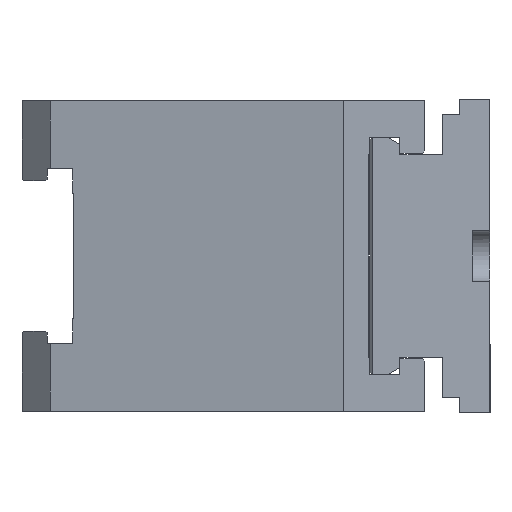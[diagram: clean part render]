
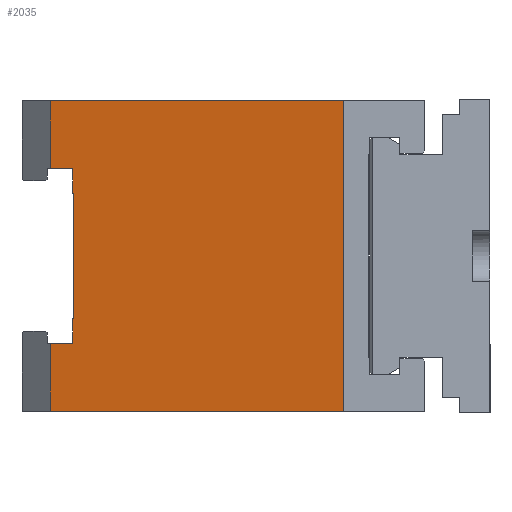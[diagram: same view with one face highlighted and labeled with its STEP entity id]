
A CAD part, left-side view. The second image highlights one B-rep face of the part: STEP entity #2035.
In plain terms, the highlighted planar face has unit normal (-0.985, 0.174, 0).
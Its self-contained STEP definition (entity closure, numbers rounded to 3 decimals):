
#495 = PLANE ( 'NONE',  #42684 ) ;
#2035 = ADVANCED_FACE ( 'NONE', ( #40202 ), #495, .F. ) ;
#2497 = ORIENTED_EDGE ( 'NONE', *, *, #9125, .T. ) ;
#2690 = VECTOR ( 'NONE', #43934, 1000. ) ;
#2721 = DIRECTION ( 'NONE',  ( -0.174, -0.985, 0. ) ) ;
#2787 = LINE ( 'NONE', #23442, #6970 ) ;
#3018 = CARTESIAN_POINT ( 'NONE',  ( -90.904, 118.8, -25. ) ) ;
#3271 = LINE ( 'NONE', #4046, #16000 ) ;
#3345 = DIRECTION ( 'NONE',  ( 0., 0., -1. ) ) ;
#3480 = CARTESIAN_POINT ( 'NONE',  ( -89.342, 127.658, -25. ) ) ;
#3681 = CARTESIAN_POINT ( 'NONE',  ( -89.342, 127.658, 35. ) ) ;
#3768 = VERTEX_POINT ( 'NONE', #3018 ) ;
#3803 = EDGE_CURVE ( 'NONE', #17496, #46310, #3271, .T. ) ;
#4046 = CARTESIAN_POINT ( 'NONE',  ( -110., 10.5, 62. ) ) ;
#4117 = EDGE_CURVE ( 'NONE', #17470, #3768, #7442, .T. ) ;
#4583 = EDGE_CURVE ( 'NONE', #45277, #38315, #47012, .T. ) ;
#6181 = LINE ( 'NONE', #22599, #22875 ) ;
#6218 = CARTESIAN_POINT ( 'NONE',  ( -90.816, 119.3, -35. ) ) ;
#6731 = CARTESIAN_POINT ( 'NONE',  ( -90.904, 118.8, -34.5 ) ) ;
#6783 = ORIENTED_EDGE ( 'NONE', *, *, #24588, .T. ) ;
#6970 = VECTOR ( 'NONE', #15768, 1000. ) ;
#7051 = DIRECTION ( 'NONE',  ( 0., 0., -1. ) ) ;
#7310 = LINE ( 'NONE', #47258, #22448 ) ;
#7384 = DIRECTION ( 'NONE',  ( -0.174, -0.985, 0. ) ) ;
#7442 = LINE ( 'NONE', #3480, #48573 ) ;
#7504 = DIRECTION ( 'NONE',  ( 0., 0., -1. ) ) ;
#7517 = CARTESIAN_POINT ( 'NONE',  ( -89.342, 127.658, 62. ) ) ;
#7904 = ORIENTED_EDGE ( 'NONE', *, *, #3803, .F. ) ;
#8088 = ORIENTED_EDGE ( 'NONE', *, *, #11250, .T. ) ;
#8330 = EDGE_CURVE ( 'NONE', #20534, #42199, #16158, .T. ) ;
#8464 = CARTESIAN_POINT ( 'NONE',  ( -90.904, 118.8, 62. ) ) ;
#9125 = EDGE_CURVE ( 'NONE', #13715, #14844, #33896, .T. ) ;
#9243 = CARTESIAN_POINT ( 'NONE',  ( -110., 10.5, 62. ) ) ;
#9961 = ORIENTED_EDGE ( 'NONE', *, *, #4583, .T. ) ;
#11250 = EDGE_CURVE ( 'NONE', #45868, #17782, #29885, .T. ) ;
#11312 = ORIENTED_EDGE ( 'NONE', *, *, #21123, .T. ) ;
#12419 = CARTESIAN_POINT ( 'NONE',  ( -89.342, 127.658, 62. ) ) ;
#12446 = DIRECTION ( 'NONE',  ( 0.174, 0.985, 0. ) ) ;
#13158 = EDGE_CURVE ( 'NONE', #45868, #17496, #47983, .T. ) ;
#13614 = DIRECTION ( 'NONE',  ( 0., 0., -1. ) ) ;
#13715 = VERTEX_POINT ( 'NONE', #26211 ) ;
#14189 = ORIENTED_EDGE ( 'NONE', *, *, #47893, .T. ) ;
#14844 = VERTEX_POINT ( 'NONE', #42797 ) ;
#15465 = VECTOR ( 'NONE', #3345, 1000. ) ;
#15768 = DIRECTION ( 'NONE',  ( 0.174, 0.985, 0. ) ) ;
#15904 = CARTESIAN_POINT ( 'NONE',  ( -90.904, 118.8, 34.5 ) ) ;
#15907 = LINE ( 'NONE', #8464, #2690 ) ;
#16000 = VECTOR ( 'NONE', #7504, 1000. ) ;
#16151 = DIRECTION ( 'NONE',  ( 0., 0., -1. ) ) ;
#16158 = LINE ( 'NONE', #31502, #33157 ) ;
#16183 = VECTOR ( 'NONE', #48505, 1000. ) ;
#16665 = DIRECTION ( 'NONE',  ( 0.985, -0.174, 0. ) ) ;
#16687 = CARTESIAN_POINT ( 'NONE',  ( -90.957, 118.5, -25. ) ) ;
#16704 = EDGE_CURVE ( 'NONE', #34873, #41358, #25394, .T. ) ;
#17470 = VERTEX_POINT ( 'NONE', #16687 ) ;
#17496 = VERTEX_POINT ( 'NONE', #9243 ) ;
#17782 = VERTEX_POINT ( 'NONE', #48605 ) ;
#17997 = VECTOR ( 'NONE', #45031, 1000. ) ;
#19091 = CARTESIAN_POINT ( 'NONE',  ( -90.816, 119.3, 35. ) ) ;
#19305 = ORIENTED_EDGE ( 'NONE', *, *, #16704, .T. ) ;
#20534 = VERTEX_POINT ( 'NONE', #48932 ) ;
#21123 = EDGE_CURVE ( 'NONE', #3768, #45277, #7310, .T. ) ;
#21588 = CARTESIAN_POINT ( 'NONE',  ( -89.342, 127.658, 62. ) ) ;
#22448 = VECTOR ( 'NONE', #7051, 1000. ) ;
#22553 = CARTESIAN_POINT ( 'NONE',  ( -90.904, 118.8, -34.5 ) ) ;
#22599 = CARTESIAN_POINT ( 'NONE',  ( -89.342, 127.658, -62. ) ) ;
#22875 = VECTOR ( 'NONE', #2721, 1000. ) ;
#23157 = CARTESIAN_POINT ( 'NONE',  ( -90.904, 118.8, -34.793 ) ) ;
#23442 = CARTESIAN_POINT ( 'NONE',  ( -89.342, 127.658, -35. ) ) ;
#23986 = VECTOR ( 'NONE', #13614, 1000. ) ;
#24588 = EDGE_CURVE ( 'NONE', #41358, #20534, #15907, .T. ) ;
#25394 =( BOUNDED_CURVE ( )  B_SPLINE_CURVE ( 3, ( #19091, #43672, #51611, #15904 ),
 .UNSPECIFIED., .F., .F. ) 
 B_SPLINE_CURVE_WITH_KNOTS ( ( 4, 4 ),
 ( 4.712, 6.283 ),
 .UNSPECIFIED. ) 
 CURVE ( )  GEOMETRIC_REPRESENTATION_ITEM ( )  RATIONAL_B_SPLINE_CURVE ( ( 1., 0.805, 0.805, 1. ) ) 
 REPRESENTATION_ITEM ( '' )  );
#25786 = VECTOR ( 'NONE', #7384, 1000. ) ;
#25930 = CARTESIAN_POINT ( 'NONE',  ( -89.342, 127.658, 62. ) ) ;
#26211 = CARTESIAN_POINT ( 'NONE',  ( -89.342, 127.658, -35. ) ) ;
#26377 = EDGE_LOOP ( 'NONE', ( #11312, #9961, #38473, #2497, #37834, #7904, #36743, #8088, #48257, #19305, #6783, #36051, #14189, #36900 ) ) ;
#27670 = CARTESIAN_POINT ( 'NONE',  ( -90.816, 119.3, 35. ) ) ;
#29885 = LINE ( 'NONE', #25930, #15465 ) ;
#30557 = EDGE_CURVE ( 'NONE', #14844, #46310, #6181, .T. ) ;
#31502 = CARTESIAN_POINT ( 'NONE',  ( -89.342, 127.658, 25. ) ) ;
#33157 = VECTOR ( 'NONE', #39424, 1000. ) ;
#33896 = LINE ( 'NONE', #41567, #17997 ) ;
#34873 = VERTEX_POINT ( 'NONE', #27670 ) ;
#35049 = CARTESIAN_POINT ( 'NONE',  ( -90.816, 119.3, -35. ) ) ;
#36051 = ORIENTED_EDGE ( 'NONE', *, *, #8330, .T. ) ;
#36743 = ORIENTED_EDGE ( 'NONE', *, *, #13158, .F. ) ;
#36900 = ORIENTED_EDGE ( 'NONE', *, *, #4117, .T. ) ;
#36986 = CARTESIAN_POINT ( 'NONE',  ( -90.957, 118.5, 25. ) ) ;
#37834 = ORIENTED_EDGE ( 'NONE', *, *, #30557, .T. ) ;
#38315 = VERTEX_POINT ( 'NONE', #35049 ) ;
#38473 = ORIENTED_EDGE ( 'NONE', *, *, #44714, .T. ) ;
#39424 = DIRECTION ( 'NONE',  ( -0.174, -0.985, 0. ) ) ;
#39713 = CARTESIAN_POINT ( 'NONE',  ( -110., 10.5, -62. ) ) ;
#40202 = FACE_OUTER_BOUND ( 'NONE', #26377, .T. ) ;
#41358 = VERTEX_POINT ( 'NONE', #49548 ) ;
#41567 = CARTESIAN_POINT ( 'NONE',  ( -89.342, 127.658, 62. ) ) ;
#42161 = LINE ( 'NONE', #42427, #23986 ) ;
#42199 = VERTEX_POINT ( 'NONE', #36986 ) ;
#42427 = CARTESIAN_POINT ( 'NONE',  ( -90.957, 118.5, 62. ) ) ;
#42453 = CARTESIAN_POINT ( 'NONE',  ( -90.867, 119.007, -35. ) ) ;
#42684 = AXIS2_PLACEMENT_3D ( 'NONE', #12419, #16665, #16151 ) ;
#42797 = CARTESIAN_POINT ( 'NONE',  ( -89.342, 127.658, -62. ) ) ;
#43672 = CARTESIAN_POINT ( 'NONE',  ( -90.867, 119.007, 35. ) ) ;
#43934 = DIRECTION ( 'NONE',  ( 0., 0., -1. ) ) ;
#44714 = EDGE_CURVE ( 'NONE', #38315, #13715, #2787, .T. ) ;
#45031 = DIRECTION ( 'NONE',  ( 0., 0., -1. ) ) ;
#45277 = VERTEX_POINT ( 'NONE', #22553 ) ;
#45868 = VERTEX_POINT ( 'NONE', #21588 ) ;
#46310 = VERTEX_POINT ( 'NONE', #39713 ) ;
#47012 =( BOUNDED_CURVE ( )  B_SPLINE_CURVE ( 3, ( #6731, #23157, #42453, #6218 ),
 .UNSPECIFIED., .F., .F. ) 
 B_SPLINE_CURVE_WITH_KNOTS ( ( 4, 4 ),
 ( 0., 1.571 ),
 .UNSPECIFIED. ) 
 CURVE ( )  GEOMETRIC_REPRESENTATION_ITEM ( )  RATIONAL_B_SPLINE_CURVE ( ( 1., 0.805, 0.805, 1. ) ) 
 REPRESENTATION_ITEM ( '' )  );
#47258 = CARTESIAN_POINT ( 'NONE',  ( -90.904, 118.8, 62. ) ) ;
#47893 = EDGE_CURVE ( 'NONE', #42199, #17470, #42161, .T. ) ;
#47983 = LINE ( 'NONE', #7517, #16183 ) ;
#48109 = LINE ( 'NONE', #3681, #25786 ) ;
#48257 = ORIENTED_EDGE ( 'NONE', *, *, #52227, .T. ) ;
#48505 = DIRECTION ( 'NONE',  ( -0.174, -0.985, 0. ) ) ;
#48573 = VECTOR ( 'NONE', #12446, 1000. ) ;
#48605 = CARTESIAN_POINT ( 'NONE',  ( -89.342, 127.658, 35. ) ) ;
#48932 = CARTESIAN_POINT ( 'NONE',  ( -90.904, 118.8, 25. ) ) ;
#49548 = CARTESIAN_POINT ( 'NONE',  ( -90.904, 118.8, 34.5 ) ) ;
#51611 = CARTESIAN_POINT ( 'NONE',  ( -90.904, 118.8, 34.793 ) ) ;
#52227 = EDGE_CURVE ( 'NONE', #17782, #34873, #48109, .T. ) ;
